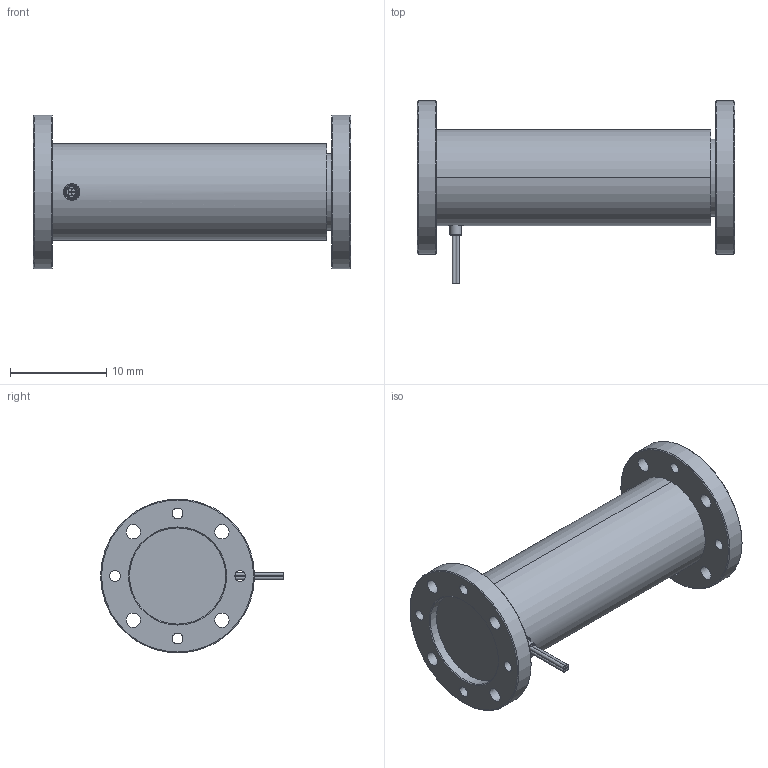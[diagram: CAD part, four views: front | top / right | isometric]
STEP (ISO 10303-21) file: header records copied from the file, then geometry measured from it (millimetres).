
FILE_DESCRIPTION(/* description */ ('Alibre Inc.'),/* implementation_level */ '2;1');
FILE_NAME(/* name */ 'export0',/* time_stamp */ '2017-09-14T17:15:51+02:00',/* author */ (''),/* organization */ (''),/* preprocessor_version */ 'ST-DEVELOPER v14',/* originating_system */ 'Alibre',/* authorisation */ '');
FILE_SCHEMA (('CONFIG_CONTROL_DESIGN'));
Length unit declared in the file: centimetre
Products named in the file (6): ID_1; ID_2; ID_3
Bounding box: 33 x 19 x 16 mm (x, y, z)
Volume: 1795.2 mm3; surface area: 3551.5 mm2
Topology: 4 solids, 4 shells, 96 faces, 225 edges, 147 vertices
Faces by surface type: cylinder 41, plane 39, cone 11, bspline 5
Full cylindrical faces by diameter (mm): 0.37 x4, 1.12 x8, 1.2 x2, 1.5 x9, 5 x1, 8 x1, 9 x1, 10 x2, 16 x2
Entity records: 3884 total; most frequent: CARTESIAN_POINT 1244, DIRECTION 401, ORIENTED_EDGE 350, EDGE_LOOP 182, FACE_BOUND 182, AXIS2_PLACEMENT_3D 181, EDGE_CURVE 175, VERTEX_POINT 137
